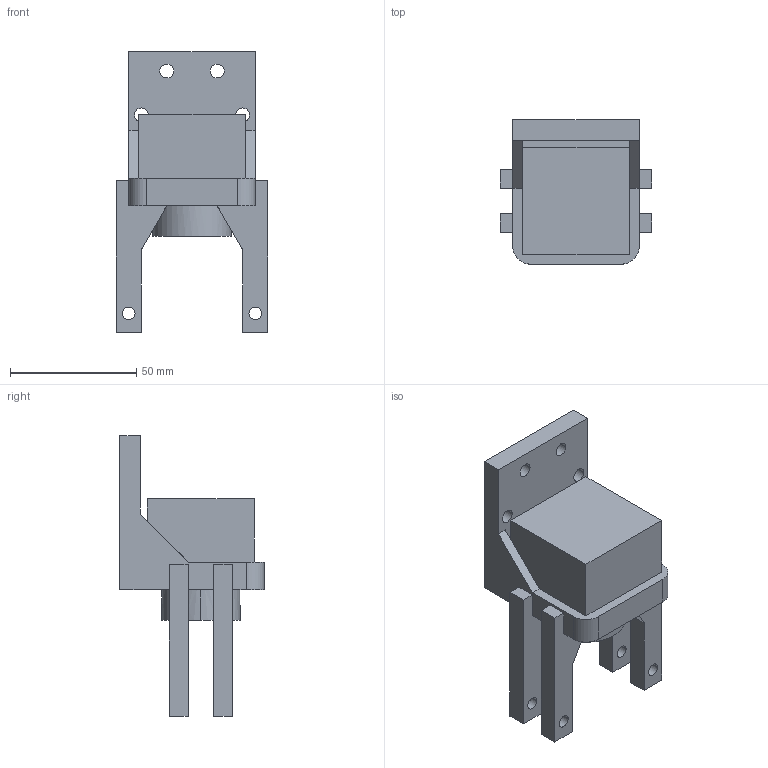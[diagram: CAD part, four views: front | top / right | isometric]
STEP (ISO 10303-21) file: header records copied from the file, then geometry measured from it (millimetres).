
FILE_DESCRIPTION (( 'STEP AP214' ), '1' );
FILE_NAME ('Halterung_NEMA17.STEP', '2026-02-05T09:58:06', ( '' ), ( '' ), 'SwSTEP 2.0', 'SolidWorks 2025', '' );
FILE_SCHEMA (( 'AUTOMOTIVE_DESIGN' ));
Length unit declared in the file: metre
Products named in the file (1): Halterung_NEMA17
Bounding box: 60 x 57 x 111 mm (x, y, z)
Volume: 114517.4 mm3; surface area: 30108.8 mm2
Topology: 1 solids, 1 shells, 92 faces, 250 edges, 166 vertices
Faces by surface type: plane 56, cylinder 36
Entity records: 2977 total; most frequent: CARTESIAN_POINT 521, DIRECTION 508, ORIENTED_EDGE 500, EDGE_CURVE 250, LINE 170, VECTOR 170, AXIS2_PLACEMENT_3D 169, VERTEX_POINT 166
